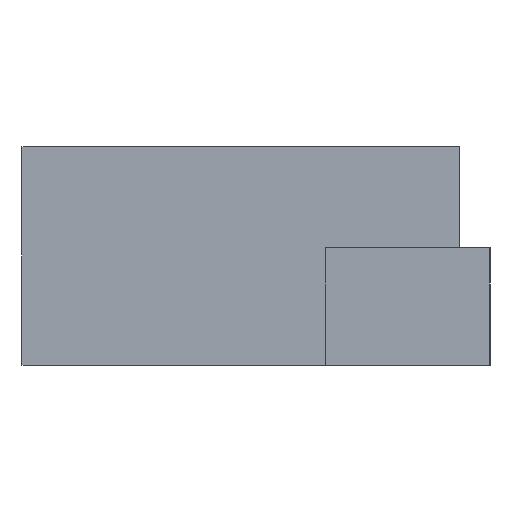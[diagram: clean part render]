
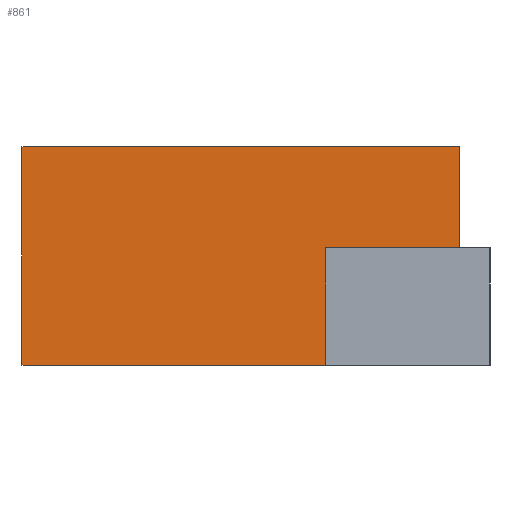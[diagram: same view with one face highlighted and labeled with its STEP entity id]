
A CAD part, left-side view. The second image highlights one B-rep face of the part: STEP entity #861.
In plain terms, the highlighted planar face has unit normal (-1, 0, 0).
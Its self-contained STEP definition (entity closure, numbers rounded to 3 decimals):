
#768 = PLANE('',#769);
#769 = AXIS2_PLACEMENT_3D('',#770,#771,#772);
#770 = CARTESIAN_POINT('',(33.5,2.35,-35.4));
#771 = DIRECTION('',(0.,-1.,0.));
#772 = DIRECTION('',(0.,0.,1.));
#796 = PLANE('',#797);
#797 = AXIS2_PLACEMENT_3D('',#798,#799,#800);
#798 = CARTESIAN_POINT('',(33.5,2.35,-35.4));
#799 = DIRECTION('',(0.,0.,1.));
#800 = DIRECTION('',(-1.,0.,0.));
#824 = PLANE('',#825);
#825 = AXIS2_PLACEMENT_3D('',#826,#827,#828);
#826 = CARTESIAN_POINT('',(33.5,-13.65,-35.4));
#827 = DIRECTION('',(0.,-1.,0.));
#828 = DIRECTION('',(0.,0.,1.));
#850 = PLANE('',#851);
#851 = AXIS2_PLACEMENT_3D('',#852,#853,#854);
#852 = CARTESIAN_POINT('',(33.5,2.35,-27.4));
#853 = DIRECTION('',(0.,0.,1.));
#854 = DIRECTION('',(-1.,0.,0.));
#861 = ADVANCED_FACE('',(#862),#876,.T.);
#862 = FACE_BOUND('',#863,.T.);
#863 = EDGE_LOOP('',(#864,#894,#917,#940));
#864 = ORIENTED_EDGE('',*,*,#865,.F.);
#865 = EDGE_CURVE('',#866,#868,#870,.T.);
#866 = VERTEX_POINT('',#867);
#867 = CARTESIAN_POINT('',(28.5,2.35,-35.4));
#868 = VERTEX_POINT('',#869);
#869 = CARTESIAN_POINT('',(28.5,2.35,-27.4));
#870 = SURFACE_CURVE('',#871,(#875,#887),.PCURVE_S1.);
#871 = LINE('',#872,#873);
#872 = CARTESIAN_POINT('',(28.5,2.35,-35.4));
#873 = VECTOR('',#874,1.);
#874 = DIRECTION('',(0.,0.,1.));
#875 = PCURVE('',#876,#881);
#876 = PLANE('',#877);
#877 = AXIS2_PLACEMENT_3D('',#878,#879,#880);
#878 = CARTESIAN_POINT('',(28.5,2.35,-35.4));
#879 = DIRECTION('',(-1.,0.,0.));
#880 = DIRECTION('',(0.,0.,1.));
#881 = DEFINITIONAL_REPRESENTATION('',(#882),#886);
#882 = LINE('',#883,#884);
#883 = CARTESIAN_POINT('',(0.,0.));
#884 = VECTOR('',#885,1.);
#885 = DIRECTION('',(1.,0.));
#886 = ( GEOMETRIC_REPRESENTATION_CONTEXT(2) 
PARAMETRIC_REPRESENTATION_CONTEXT() REPRESENTATION_CONTEXT('2D SPACE',''
  ) );
#887 = PCURVE('',#768,#888);
#888 = DEFINITIONAL_REPRESENTATION('',(#889),#893);
#889 = LINE('',#890,#891);
#890 = CARTESIAN_POINT('',(0.,5.));
#891 = VECTOR('',#892,1.);
#892 = DIRECTION('',(1.,0.));
#893 = ( GEOMETRIC_REPRESENTATION_CONTEXT(2) 
PARAMETRIC_REPRESENTATION_CONTEXT() REPRESENTATION_CONTEXT('2D SPACE',''
  ) );
#894 = ORIENTED_EDGE('',*,*,#895,.T.);
#895 = EDGE_CURVE('',#866,#896,#898,.T.);
#896 = VERTEX_POINT('',#897);
#897 = CARTESIAN_POINT('',(28.5,-13.65,-35.4));
#898 = SURFACE_CURVE('',#899,(#903,#910),.PCURVE_S1.);
#899 = LINE('',#900,#901);
#900 = CARTESIAN_POINT('',(28.5,2.35,-35.4));
#901 = VECTOR('',#902,1.);
#902 = DIRECTION('',(0.,-1.,0.));
#903 = PCURVE('',#876,#904);
#904 = DEFINITIONAL_REPRESENTATION('',(#905),#909);
#905 = LINE('',#906,#907);
#906 = CARTESIAN_POINT('',(0.,0.));
#907 = VECTOR('',#908,1.);
#908 = DIRECTION('',(0.,-1.));
#909 = ( GEOMETRIC_REPRESENTATION_CONTEXT(2) 
PARAMETRIC_REPRESENTATION_CONTEXT() REPRESENTATION_CONTEXT('2D SPACE',''
  ) );
#910 = PCURVE('',#796,#911);
#911 = DEFINITIONAL_REPRESENTATION('',(#912),#916);
#912 = LINE('',#913,#914);
#913 = CARTESIAN_POINT('',(5.,0.));
#914 = VECTOR('',#915,1.);
#915 = DIRECTION('',(0.,1.));
#916 = ( GEOMETRIC_REPRESENTATION_CONTEXT(2) 
PARAMETRIC_REPRESENTATION_CONTEXT() REPRESENTATION_CONTEXT('2D SPACE',''
  ) );
#917 = ORIENTED_EDGE('',*,*,#918,.T.);
#918 = EDGE_CURVE('',#896,#919,#921,.T.);
#919 = VERTEX_POINT('',#920);
#920 = CARTESIAN_POINT('',(28.5,-13.65,-27.4));
#921 = SURFACE_CURVE('',#922,(#926,#933),.PCURVE_S1.);
#922 = LINE('',#923,#924);
#923 = CARTESIAN_POINT('',(28.5,-13.65,-35.4));
#924 = VECTOR('',#925,1.);
#925 = DIRECTION('',(0.,0.,1.));
#926 = PCURVE('',#876,#927);
#927 = DEFINITIONAL_REPRESENTATION('',(#928),#932);
#928 = LINE('',#929,#930);
#929 = CARTESIAN_POINT('',(0.,-16.));
#930 = VECTOR('',#931,1.);
#931 = DIRECTION('',(1.,0.));
#932 = ( GEOMETRIC_REPRESENTATION_CONTEXT(2) 
PARAMETRIC_REPRESENTATION_CONTEXT() REPRESENTATION_CONTEXT('2D SPACE',''
  ) );
#933 = PCURVE('',#824,#934);
#934 = DEFINITIONAL_REPRESENTATION('',(#935),#939);
#935 = LINE('',#936,#937);
#936 = CARTESIAN_POINT('',(0.,5.));
#937 = VECTOR('',#938,1.);
#938 = DIRECTION('',(1.,0.));
#939 = ( GEOMETRIC_REPRESENTATION_CONTEXT(2) 
PARAMETRIC_REPRESENTATION_CONTEXT() REPRESENTATION_CONTEXT('2D SPACE',''
  ) );
#940 = ORIENTED_EDGE('',*,*,#941,.F.);
#941 = EDGE_CURVE('',#868,#919,#942,.T.);
#942 = SURFACE_CURVE('',#943,(#947,#954),.PCURVE_S1.);
#943 = LINE('',#944,#945);
#944 = CARTESIAN_POINT('',(28.5,2.35,-27.4));
#945 = VECTOR('',#946,1.);
#946 = DIRECTION('',(0.,-1.,0.));
#947 = PCURVE('',#876,#948);
#948 = DEFINITIONAL_REPRESENTATION('',(#949),#953);
#949 = LINE('',#950,#951);
#950 = CARTESIAN_POINT('',(8.,0.));
#951 = VECTOR('',#952,1.);
#952 = DIRECTION('',(0.,-1.));
#953 = ( GEOMETRIC_REPRESENTATION_CONTEXT(2) 
PARAMETRIC_REPRESENTATION_CONTEXT() REPRESENTATION_CONTEXT('2D SPACE',''
  ) );
#954 = PCURVE('',#850,#955);
#955 = DEFINITIONAL_REPRESENTATION('',(#956),#960);
#956 = LINE('',#957,#958);
#957 = CARTESIAN_POINT('',(5.,0.));
#958 = VECTOR('',#959,1.);
#959 = DIRECTION('',(0.,1.));
#960 = ( GEOMETRIC_REPRESENTATION_CONTEXT(2) 
PARAMETRIC_REPRESENTATION_CONTEXT() REPRESENTATION_CONTEXT('2D SPACE',''
  ) );
